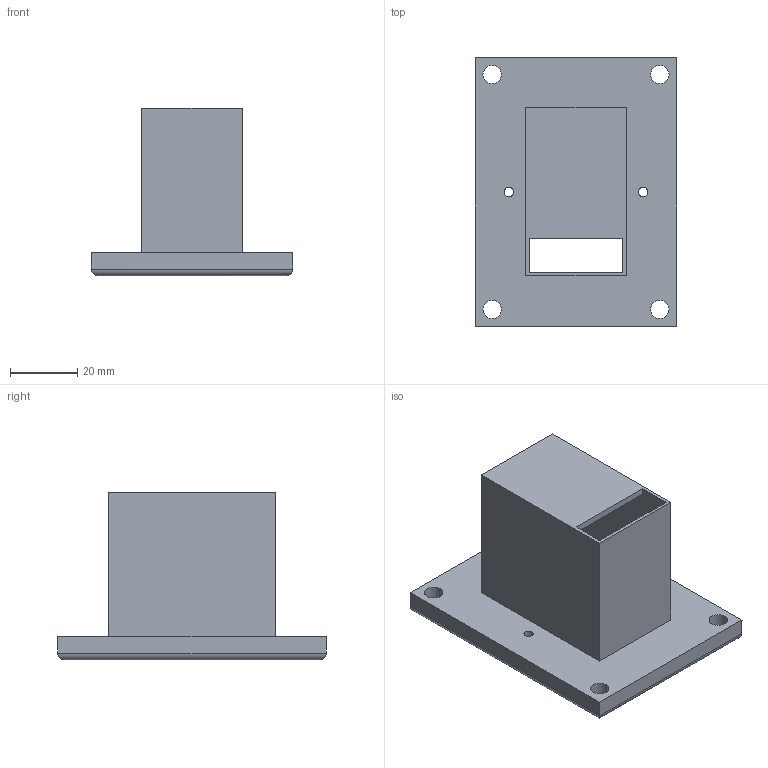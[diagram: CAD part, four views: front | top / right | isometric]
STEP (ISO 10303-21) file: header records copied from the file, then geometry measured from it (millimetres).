
FILE_DESCRIPTION(/* description */ (''),/* implementation_level */ '2;1');
FILE_NAME(/* name */ 'Power Switch v3.step',/* time_stamp */ '2023-03-23T06:37:53-06:00',/* author */ (''),/* organization */ (''),/* preprocessor_version */ 'ST-DEVELOPER v19.2',/* originating_system */ 'Autodesk Translation Framework v11.17.0.187',/* authorisation */ '');
FILE_SCHEMA (('AUTOMOTIVE_DESIGN { 1 0 10303 214 3 1 1 }'));
Length unit declared in the file: millimetre
Products named in the file (1): Power Switch
Bounding box: 60 x 80 x 50 mm (x, y, z)
Volume: 32039.3 mm3; surface area: 25477.6 mm2
Topology: 1 solids, 1 shells, 27 faces, 68 edges, 44 vertices
Faces by surface type: plane 17, cylinder 10
Full cylindrical faces by diameter (mm): 2.8 x2, 5.5 x4
Entity records: 856 total; most frequent: DIRECTION 140, CARTESIAN_POINT 140, ORIENTED_EDGE 136, EDGE_CURVE 68, LINE 52, VECTOR 52, VERTEX_POINT 44, AXIS2_PLACEMENT_3D 44
